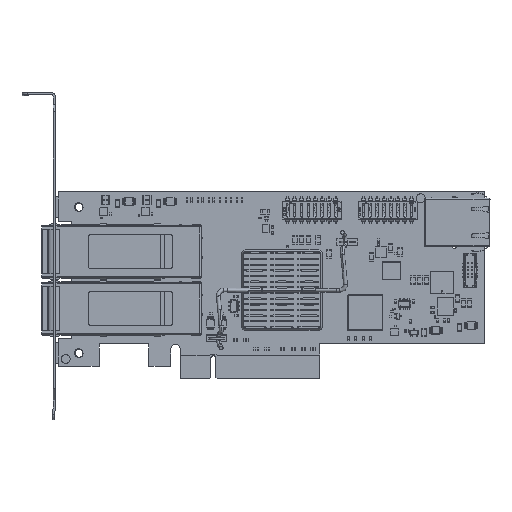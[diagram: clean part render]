
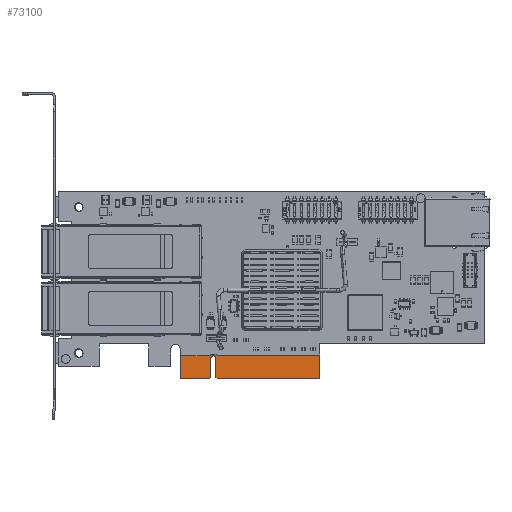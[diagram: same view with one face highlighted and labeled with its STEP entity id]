
A CAD part, top view. The second image highlights one B-rep face of the part: STEP entity #73100.
In plain terms, the highlighted planar face has unit normal (0, 0, 1).
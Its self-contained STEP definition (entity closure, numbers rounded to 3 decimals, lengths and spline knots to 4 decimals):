
#65665=FACE_OUTER_BOUND($,#66233,.F.);
#66233=EDGE_LOOP($,(#87343,#87344,#87345,#87346,#87347,#87348,#87349,#87350,
#87351,#87352,#87353,#87354,#87355,#87356));
#70425=PLANE($,#80386);
#73100=ADVANCED_FACE($,(#65665),#70425,.T.);
#77212=CIRCLE($,#80385,0.0374);
#80385=AXIS2_PLACEMENT_3D($,#201515,#168256,$);
#80386=AXIS2_PLACEMENT_3D($,#201501,#168256,$);
#87343=ORIENTED_EDGE($,*,*,#107810,.T.);
#87344=ORIENTED_EDGE($,*,*,#107811,.T.);
#87345=ORIENTED_EDGE($,*,*,#107812,.T.);
#87346=ORIENTED_EDGE($,*,*,#107813,.T.);
#87347=ORIENTED_EDGE($,*,*,#107814,.T.);
#87348=ORIENTED_EDGE($,*,*,#107815,.T.);
#87349=ORIENTED_EDGE($,*,*,#107816,.T.);
#87350=ORIENTED_EDGE($,*,*,#107817,.T.);
#87351=ORIENTED_EDGE($,*,*,#107818,.T.);
#87352=ORIENTED_EDGE($,*,*,#107819,.T.);
#87353=ORIENTED_EDGE($,*,*,#107820,.T.);
#87354=ORIENTED_EDGE($,*,*,#107821,.T.);
#87355=ORIENTED_EDGE($,*,*,#107822,.T.);
#87356=ORIENTED_EDGE($,*,*,#107823,.T.);
#107810=EDGE_CURVE($,#159394,#159395,#139104,.T.);
#107811=EDGE_CURVE($,#159395,#159396,#139105,.T.);
#107812=EDGE_CURVE($,#159396,#159397,#77212,.T.);
#107813=EDGE_CURVE($,#159397,#159398,#139106,.T.);
#107814=EDGE_CURVE($,#159398,#159399,#139107,.T.);
#107815=EDGE_CURVE($,#159399,#159400,#139108,.T.);
#107816=EDGE_CURVE($,#159400,#159401,#139109,.T.);
#107817=EDGE_CURVE($,#159401,#159402,#139110,.T.);
#107818=EDGE_CURVE($,#159402,#159403,#139111,.T.);
#107819=EDGE_CURVE($,#159403,#159404,#139112,.T.);
#107820=EDGE_CURVE($,#159404,#159405,#139113,.T.);
#107821=EDGE_CURVE($,#159405,#159406,#139114,.T.);
#107822=EDGE_CURVE($,#159406,#159407,#139115,.T.);
#107823=EDGE_CURVE($,#159407,#159394,#139116,.T.);
#118941=VECTOR($,#168669,0.0278);
#118942=VECTOR($,#168670,0.2721);
#118943=VECTOR($,#168671,0.2721);
#118944=VECTOR($,#168672,0.0278);
#118945=VECTOR($,#168673,0.4213);
#118946=VECTOR($,#168674,0.3307);
#118947=VECTOR($,#168675,0.4205);
#118948=VECTOR($,#168676,0.029);
#118949=VECTOR($,#168677,0.0752);
#118950=VECTOR($,#168678,0.029);
#118951=VECTOR($,#168679,1.4831);
#118952=VECTOR($,#168680,0.3307);
#118953=VECTOR($,#168681,1.4843);
#139104=LINE($,#201500,#118941);
#139105=LINE($,#201501,#118942);
#139106=LINE($,#201503,#118943);
#139107=LINE($,#201504,#118944);
#139108=LINE($,#201505,#118945);
#139109=LINE($,#201506,#118946);
#139110=LINE($,#201507,#118947);
#139111=LINE($,#201508,#118948);
#139112=LINE($,#201509,#118949);
#139113=LINE($,#201510,#118950);
#139114=LINE($,#201511,#118951);
#139115=LINE($,#201512,#118952);
#139116=LINE($,#201513,#118953);
#159394=VERTEX_POINT($,#201500);
#159395=VERTEX_POINT($,#201501);
#159396=VERTEX_POINT($,#201502);
#159397=VERTEX_POINT($,#201503);
#159398=VERTEX_POINT($,#201504);
#159399=VERTEX_POINT($,#201505);
#159400=VERTEX_POINT($,#201506);
#159401=VERTEX_POINT($,#201507);
#159402=VERTEX_POINT($,#201508);
#159403=VERTEX_POINT($,#201509);
#159404=VERTEX_POINT($,#201510);
#159405=VERTEX_POINT($,#201511);
#159406=VERTEX_POINT($,#201512);
#159407=VERTEX_POINT($,#201513);
#168256=DIRECTION($,(0.,0.,1.));
#168669=DIRECTION($,(-0.707,0.707,0.));
#168670=DIRECTION($,(0.,1.,0.));
#168671=DIRECTION($,(0.,-1.,0.));
#168672=DIRECTION($,(-0.707,-0.707,0.));
#168673=DIRECTION($,(-1.,0.,0.));
#168674=DIRECTION($,(0.,1.,0.));
#168675=DIRECTION($,(1.,0.,0.));
#168676=DIRECTION($,(0.707,0.707,0.));
#168677=DIRECTION($,(1.,0.,0.));
#168678=DIRECTION($,(0.707,-0.707,0.));
#168679=DIRECTION($,(1.,0.,0.));
#168680=DIRECTION($,(0.,-1.,0.));
#168681=DIRECTION($,(-1.,0.,0.));
#201500=CARTESIAN_POINT('',(0.5098,-0.1378,0.001));
#201501=CARTESIAN_POINT('',(0.4902,-0.1181,0.001));
#201502=CARTESIAN_POINT('',(0.4902,0.1539,0.001));
#201503=CARTESIAN_POINT('',(0.4154,0.1539,0.001));
#201504=CARTESIAN_POINT('',(0.4154,-0.1181,0.001));
#201505=CARTESIAN_POINT('',(0.3957,-0.1378,0.001));
#201506=CARTESIAN_POINT('',(-0.0256,-0.1378,0.001));
#201507=CARTESIAN_POINT('',(-0.0256,0.1929,0.001));
#201508=CARTESIAN_POINT('',(0.3949,0.1929,0.001));
#201509=CARTESIAN_POINT('',(0.4154,0.2134,0.001));
#201510=CARTESIAN_POINT('',(0.4906,0.2134,0.001));
#201511=CARTESIAN_POINT('',(0.511,0.1929,0.001));
#201512=CARTESIAN_POINT('',(1.9941,0.1929,0.001));
#201513=CARTESIAN_POINT('',(1.9941,-0.1378,0.001));
#201515=CARTESIAN_POINT('',(0.4528,0.1555,0.001));
